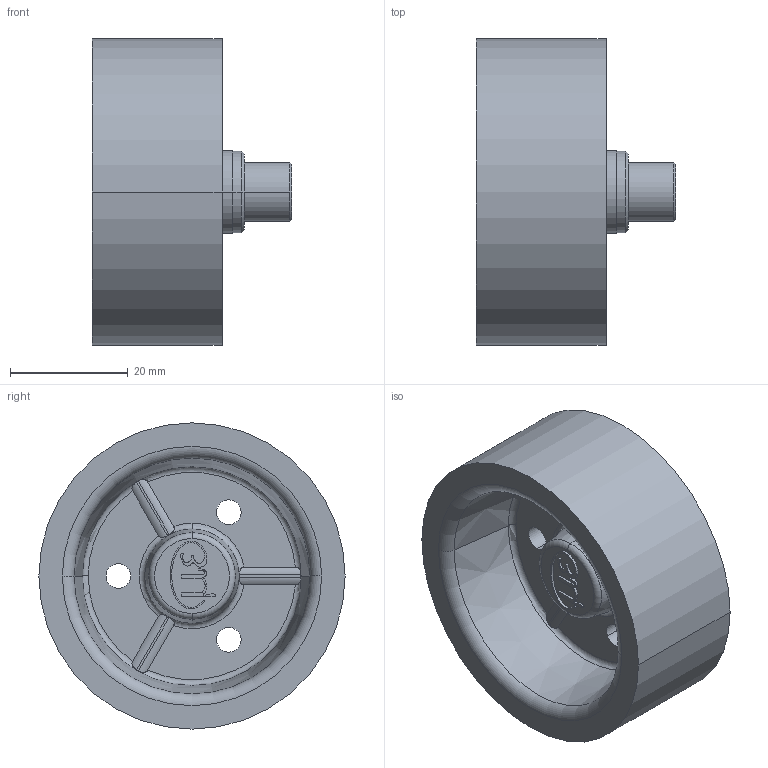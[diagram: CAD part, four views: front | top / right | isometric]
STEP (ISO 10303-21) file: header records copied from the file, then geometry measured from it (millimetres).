
FILE_DESCRIPTION((''),'2;1');
FILE_NAME('EU22_ASM','2008-09-19T',('11000205'),(''),'PRO/ENGINEER BY PARAMETRIC TECHNOLOGY CORPORATION, 2006460','PRO/ENGINEER BY PARAMETRIC TECHNOLOGY CORPORATION, 2006460','');
FILE_SCHEMA(('CONFIG_CONTROL_DESIGN'));
Length unit declared in the file: millimetre
Products named in the file (4): EU22; 0323120_; ME-SYMBOL2; EU22_ASM
Assembly tree (3 placements, depth 2):
  EU22_ASM
    EU22
    0323120_
    ME-SYMBOL2
Bounding box: 33.8 x 52 x 52 mm (x, y, z)
Volume: 31944.6 mm3; surface area: 12386.7 mm2
Topology: 6 solids, 74 shells, 686 faces, 1456 edges, 925 vertices
Faces by surface type: plane 343, cylinder 195, cone 89, torus 53, extrusion 6
Entity records: 19212 total; most frequent: CARTESIAN_POINT 4177, DIRECTION 3243, ORIENTED_EDGE 2896, EDGE_CURVE 1452, AXIS2_PLACEMENT_3D 1257, VERTEX_POINT 925, EDGE_LOOP 731, VECTOR 729
